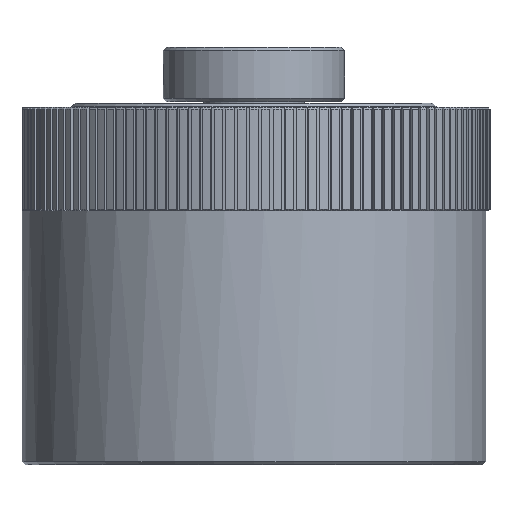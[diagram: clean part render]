
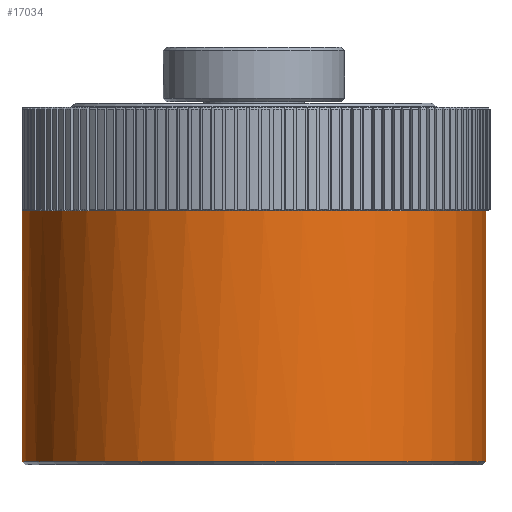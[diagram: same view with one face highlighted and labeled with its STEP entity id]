
A CAD part, front view. The second image highlights one B-rep face of the part: STEP entity #17034.
In plain terms, the highlighted cylindrical face has radius 34.417 mm (diameter 68.834 mm), a partial arc.
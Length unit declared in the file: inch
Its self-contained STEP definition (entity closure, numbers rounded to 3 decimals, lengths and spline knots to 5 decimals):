
#37 = VERTEX_POINT ( 'NONE', #4875 ) ;
#144 = CARTESIAN_POINT ( 'NONE',  ( 0., 0., -0.9571 ) ) ;
#630 = AXIS2_PLACEMENT_3D ( 'NONE', #1643, #16447, #3761 ) ;
#1270 = DIRECTION ( 'NONE',  ( 0., 0., 1. ) ) ;
#1314 = EDGE_CURVE ( 'NONE', #8128, #37, #27076, .T. ) ;
#1568 = AXIS2_PLACEMENT_3D ( 'NONE', #144, #14925, #2264 ) ;
#1643 = CARTESIAN_POINT ( 'NONE',  ( 0., 0., -2.4221 ) ) ;
#2141 = EDGE_CURVE ( 'NONE', #20179, #8128, #12958, .T. ) ;
#2264 = DIRECTION ( 'NONE',  ( 1., 0., 0. ) ) ;
#2546 = CARTESIAN_POINT ( 'NONE',  ( 1.355, 0., -2.4221 ) ) ;
#2825 = ORIENTED_EDGE ( 'NONE', *, *, #2141, .F. ) ;
#3761 = DIRECTION ( 'NONE',  ( 1., 0., 0. ) ) ;
#4056 = CARTESIAN_POINT ( 'NONE',  ( 0., 0., -0.15165 ) ) ;
#4875 = CARTESIAN_POINT ( 'NONE',  ( -1.35, -0.1163, -0.9571 ) ) ;
#5362 = AXIS2_PLACEMENT_3D ( 'NONE', #4056, #12416, #16724 ) ;
#6104 = VERTEX_POINT ( 'NONE', #14785 ) ;
#6218 = CIRCLE ( 'NONE', #1568, 1.355 ) ;
#7155 = DIRECTION ( 'NONE',  ( 0., 0., 1. ) ) ;
#7322 = VECTOR ( 'NONE', #17438, 39.37008 ) ;
#7417 = ORIENTED_EDGE ( 'NONE', *, *, #12073, .F. ) ;
#7727 = ORIENTED_EDGE ( 'NONE', *, *, #19144, .T. ) ;
#8128 = VERTEX_POINT ( 'NONE', #22117 ) ;
#10709 = FACE_OUTER_BOUND ( 'NONE', #15625, .T. ) ;
#11751 = CARTESIAN_POINT ( 'NONE',  ( -1.355, 0., -2.4221 ) ) ;
#12073 = EDGE_CURVE ( 'NONE', #37, #6104, #6218, .T. ) ;
#12144 = VERTEX_POINT ( 'NONE', #2546 ) ;
#12358 = ORIENTED_EDGE ( 'NONE', *, *, #14818, .T. ) ;
#12416 = DIRECTION ( 'NONE',  ( 0., 0., 1. ) ) ;
#12444 = VECTOR ( 'NONE', #7155, 39.37008 ) ;
#12958 = LINE ( 'NONE', #19555, #7322 ) ;
#13937 = CARTESIAN_POINT ( 'NONE',  ( 0., 0., -0.9571 ) ) ;
#14785 = CARTESIAN_POINT ( 'NONE',  ( 1.355, 0., -0.9571 ) ) ;
#14818 = EDGE_CURVE ( 'NONE', #12144, #6104, #24361, .T. ) ;
#14925 = DIRECTION ( 'NONE',  ( 0., 0., 1. ) ) ;
#15625 = EDGE_LOOP ( 'NONE', ( #2825, #7727, #12358, #7417, #20529 ) ) ;
#16046 = DIRECTION ( 'NONE',  ( 1., 0., 0. ) ) ;
#16447 = DIRECTION ( 'NONE',  ( 0., 0., 1. ) ) ;
#16509 = AXIS2_PLACEMENT_3D ( 'NONE', #13937, #1270, #16046 ) ;
#16724 = DIRECTION ( 'NONE',  ( 1., 0., 0. ) ) ;
#17034 = ADVANCED_FACE ( 'NONE', ( #10709 ), #26975, .T. ) ;
#17438 = DIRECTION ( 'NONE',  ( 0., 0., 1. ) ) ;
#19144 = EDGE_CURVE ( 'NONE', #20179, #12144, #22544, .T. ) ;
#19555 = CARTESIAN_POINT ( 'NONE',  ( -1.355, 0., -0.15165 ) ) ;
#19810 = CARTESIAN_POINT ( 'NONE',  ( 1.355, 0., -0.15165 ) ) ;
#20179 = VERTEX_POINT ( 'NONE', #11751 ) ;
#20529 = ORIENTED_EDGE ( 'NONE', *, *, #1314, .F. ) ;
#22117 = CARTESIAN_POINT ( 'NONE',  ( -1.355, 0., -0.9571 ) ) ;
#22544 = CIRCLE ( 'NONE', #630, 1.355 ) ;
#24361 = LINE ( 'NONE', #19810, #12444 ) ;
#26975 = CYLINDRICAL_SURFACE ( 'NONE', #5362, 1.355 ) ;
#27076 = CIRCLE ( 'NONE', #16509, 1.355 ) ;
